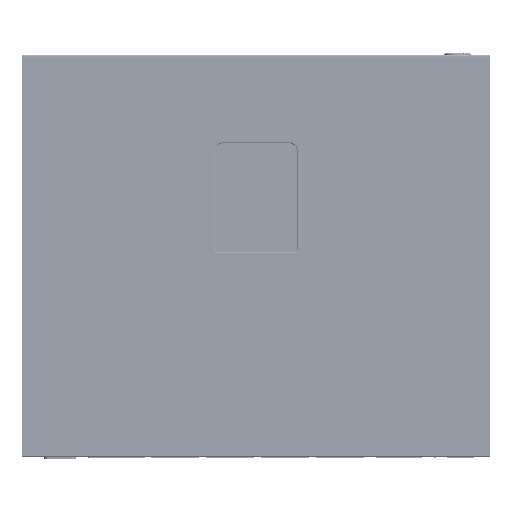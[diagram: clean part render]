
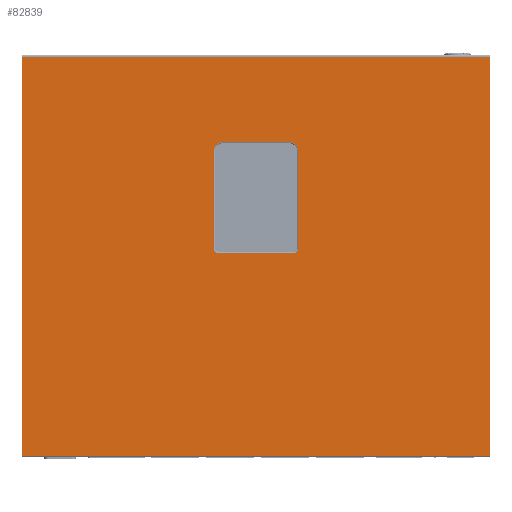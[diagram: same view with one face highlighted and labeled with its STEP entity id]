
A CAD part, front view. The second image highlights one B-rep face of the part: STEP entity #82839.
In plain terms, the highlighted planar face has unit normal (0, -1, 0).
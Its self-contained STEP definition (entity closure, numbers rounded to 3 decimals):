
#1714 = DIRECTION ( 'NONE',  ( 0., 0., -1. ) ) ;
#3263 = VERTEX_POINT ( 'NONE', #237533 ) ;
#7908 = EDGE_CURVE ( 'NONE', #272406, #106002, #15538, .T. ) ;
#10541 = CARTESIAN_POINT ( 'NONE',  ( 31., 0., -82.482 ) ) ;
#13409 = EDGE_CURVE ( 'NONE', #47713, #97486, #259770, .T. ) ;
#15538 = LINE ( 'NONE', #125546, #35036 ) ;
#15636 = CARTESIAN_POINT ( 'NONE',  ( -36., 0., -187.518 ) ) ;
#21308 = VECTOR ( 'NONE', #271334, 1000. ) ;
#28565 = ORIENTED_EDGE ( 'NONE', *, *, #174572, .T. ) ;
#29223 = EDGE_LOOP ( 'NONE', ( #28565, #238566, #182672, #98565, #242026, #151022, #171888, #100864 ) ) ;
#29454 = VECTOR ( 'NONE', #260641, 1000. ) ;
#30055 = CARTESIAN_POINT ( 'NONE',  ( -40.018, 0., -91.5 ) ) ;
#32012 = DIRECTION ( 'NONE',  ( 0., 0., 1. ) ) ;
#34520 = VERTEX_POINT ( 'NONE', #221950 ) ;
#35036 = VECTOR ( 'NONE', #101619, 1000. ) ;
#43500 = AXIS2_PLACEMENT_3D ( 'NONE', #183098, #120867, #32012 ) ;
#44487 = DIRECTION ( 'NONE',  ( 0., 0., 1. ) ) ;
#47713 = VERTEX_POINT ( 'NONE', #15636 ) ;
#55648 = VERTEX_POINT ( 'NONE', #10541 ) ;
#57490 = ORIENTED_EDGE ( 'NONE', *, *, #196929, .F. ) ;
#61709 = PLANE ( 'NONE',  #168768 ) ;
#81327 = FACE_OUTER_BOUND ( 'NONE', #255230, .T. ) ;
#82839 = ADVANCED_FACE ( 'NONE', ( #235296, #81327 ), #61709, .F. ) ;
#86225 = CARTESIAN_POINT ( 'NONE',  ( 221.5, 0., -1.6 ) ) ;
#88610 = CARTESIAN_POINT ( 'NONE',  ( 36., 0., -187.518 ) ) ;
#94884 = CARTESIAN_POINT ( 'NONE',  ( 40.018, 0., -183.5 ) ) ;
#97486 = VERTEX_POINT ( 'NONE', #217933 ) ;
#98263 = CARTESIAN_POINT ( 'NONE',  ( -36., 0., -187.518 ) ) ;
#98565 = ORIENTED_EDGE ( 'NONE', *, *, #114033, .T. ) ;
#100864 = ORIENTED_EDGE ( 'NONE', *, *, #254642, .T. ) ;
#101619 = DIRECTION ( 'NONE',  ( -1., 0., 0. ) ) ;
#102567 = CARTESIAN_POINT ( 'NONE',  ( 0., 0., 0. ) ) ;
#106002 = VERTEX_POINT ( 'NONE', #220365 ) ;
#107716 = VECTOR ( 'NONE', #225381, 1000. ) ;
#110061 = DIRECTION ( 'NONE',  ( 0., 1., 0. ) ) ;
#110354 = VECTOR ( 'NONE', #183048, 1000. ) ;
#111813 = VECTOR ( 'NONE', #279343, 1000. ) ;
#114033 = EDGE_CURVE ( 'NONE', #140895, #192990, #214381, .T. ) ;
#117929 = CARTESIAN_POINT ( 'NONE',  ( 221.5, 0., -381. ) ) ;
#118126 = CARTESIAN_POINT ( 'NONE',  ( -221.5, 0., -379.4 ) ) ;
#120867 = DIRECTION ( 'NONE',  ( 0., 1., 0. ) ) ;
#121715 = ORIENTED_EDGE ( 'NONE', *, *, #153373, .T. ) ;
#125546 = CARTESIAN_POINT ( 'NONE',  ( 0., 0., -1.6 ) ) ;
#139194 = VECTOR ( 'NONE', #185208, 1000. ) ;
#140895 = VERTEX_POINT ( 'NONE', #94884 ) ;
#142799 = LINE ( 'NONE', #30055, #139194 ) ;
#146957 = AXIS2_PLACEMENT_3D ( 'NONE', #227312, #208901, #228759 ) ;
#147483 = DIRECTION ( 'NONE',  ( 0., 1., 0. ) ) ;
#147631 = CARTESIAN_POINT ( 'NONE',  ( -221.5, 0., -381. ) ) ;
#150244 = VECTOR ( 'NONE', #1714, 1000. ) ;
#151022 = ORIENTED_EDGE ( 'NONE', *, *, #13409, .T. ) ;
#153373 = EDGE_CURVE ( 'NONE', #271950, #34520, #196053, .T. ) ;
#155180 = CARTESIAN_POINT ( 'NONE',  ( 36., 0., -183.5 ) ) ;
#155982 = ORIENTED_EDGE ( 'NONE', *, *, #260527, .F. ) ;
#162496 = CARTESIAN_POINT ( 'NONE',  ( 31., 0., -82.482 ) ) ;
#165057 = CIRCLE ( 'NONE', #43500, 9.018 ) ;
#168353 = VERTEX_POINT ( 'NONE', #232911 ) ;
#168768 = AXIS2_PLACEMENT_3D ( 'NONE', #102567, #279045, #190108 ) ;
#171888 = ORIENTED_EDGE ( 'NONE', *, *, #273662, .T. ) ;
#174572 = EDGE_CURVE ( 'NONE', #168353, #55648, #185156, .T. ) ;
#182672 = ORIENTED_EDGE ( 'NONE', *, *, #249271, .T. ) ;
#183048 = DIRECTION ( 'NONE',  ( -1., 0., 0. ) ) ;
#183098 = CARTESIAN_POINT ( 'NONE',  ( 31., 0., -91.5 ) ) ;
#185156 = LINE ( 'NONE', #162496, #21308 ) ;
#185208 = DIRECTION ( 'NONE',  ( 0., 0., 1. ) ) ;
#190108 = DIRECTION ( 'NONE',  ( 0., 0., 1. ) ) ;
#190867 = LINE ( 'NONE', #240198, #150244 ) ;
#192990 = VERTEX_POINT ( 'NONE', #88610 ) ;
#196053 = LINE ( 'NONE', #238418, #111813 ) ;
#196929 = EDGE_CURVE ( 'NONE', #272406, #34520, #246494, .T. ) ;
#199287 = CIRCLE ( 'NONE', #221693, 9.018 ) ;
#200385 = ORIENTED_EDGE ( 'NONE', *, *, #7908, .T. ) ;
#201499 = LINE ( 'NONE', #98263, #110354 ) ;
#208901 = DIRECTION ( 'NONE',  ( 0., 1., 0. ) ) ;
#214381 = CIRCLE ( 'NONE', #250424, 4.018 ) ;
#215367 = CARTESIAN_POINT ( 'NONE',  ( -31., 0., -91.5 ) ) ;
#217933 = CARTESIAN_POINT ( 'NONE',  ( -40.018, 0., -183.5 ) ) ;
#220365 = CARTESIAN_POINT ( 'NONE',  ( -221.5, 0., -1.6 ) ) ;
#221693 = AXIS2_PLACEMENT_3D ( 'NONE', #215367, #147483, #44487 ) ;
#221950 = CARTESIAN_POINT ( 'NONE',  ( 221.5, 0., -379.4 ) ) ;
#225381 = DIRECTION ( 'NONE',  ( 0., 0., -1. ) ) ;
#227312 = CARTESIAN_POINT ( 'NONE',  ( -36., 0., -183.5 ) ) ;
#228759 = DIRECTION ( 'NONE',  ( 0., 0., 1. ) ) ;
#232911 = CARTESIAN_POINT ( 'NONE',  ( -31., 0., -82.482 ) ) ;
#235296 = FACE_BOUND ( 'NONE', #29223, .T. ) ;
#237533 = CARTESIAN_POINT ( 'NONE',  ( 40.018, 0., -91.5 ) ) ;
#238418 = CARTESIAN_POINT ( 'NONE',  ( 0., 0., -379.4 ) ) ;
#238566 = ORIENTED_EDGE ( 'NONE', *, *, #257437, .T. ) ;
#238611 = DIRECTION ( 'NONE',  ( 0., 0., 1. ) ) ;
#240198 = CARTESIAN_POINT ( 'NONE',  ( 40.018, 0., -183.5 ) ) ;
#242026 = ORIENTED_EDGE ( 'NONE', *, *, #256578, .T. ) ;
#246494 = LINE ( 'NONE', #117929, #107716 ) ;
#249271 = EDGE_CURVE ( 'NONE', #3263, #140895, #190867, .T. ) ;
#250424 = AXIS2_PLACEMENT_3D ( 'NONE', #155180, #110061, #238611 ) ;
#253856 = CARTESIAN_POINT ( 'NONE',  ( -40.018, 0., -91.5 ) ) ;
#254642 = EDGE_CURVE ( 'NONE', #256181, #168353, #199287, .T. ) ;
#255230 = EDGE_LOOP ( 'NONE', ( #155982, #121715, #57490, #200385 ) ) ;
#256181 = VERTEX_POINT ( 'NONE', #253856 ) ;
#256578 = EDGE_CURVE ( 'NONE', #192990, #47713, #201499, .T. ) ;
#257437 = EDGE_CURVE ( 'NONE', #55648, #3263, #165057, .T. ) ;
#259268 = LINE ( 'NONE', #147631, #29454 ) ;
#259770 = CIRCLE ( 'NONE', #146957, 4.018 ) ;
#260527 = EDGE_CURVE ( 'NONE', #271950, #106002, #259268, .T. ) ;
#260641 = DIRECTION ( 'NONE',  ( 0., 0., 1. ) ) ;
#271334 = DIRECTION ( 'NONE',  ( 1., 0., 0. ) ) ;
#271950 = VERTEX_POINT ( 'NONE', #118126 ) ;
#272406 = VERTEX_POINT ( 'NONE', #86225 ) ;
#273662 = EDGE_CURVE ( 'NONE', #97486, #256181, #142799, .T. ) ;
#279045 = DIRECTION ( 'NONE',  ( 0., 1., 0. ) ) ;
#279343 = DIRECTION ( 'NONE',  ( 1., 0., 0. ) ) ;
